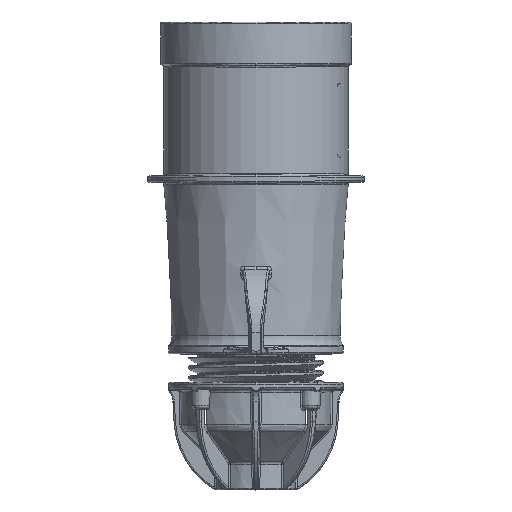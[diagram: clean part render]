
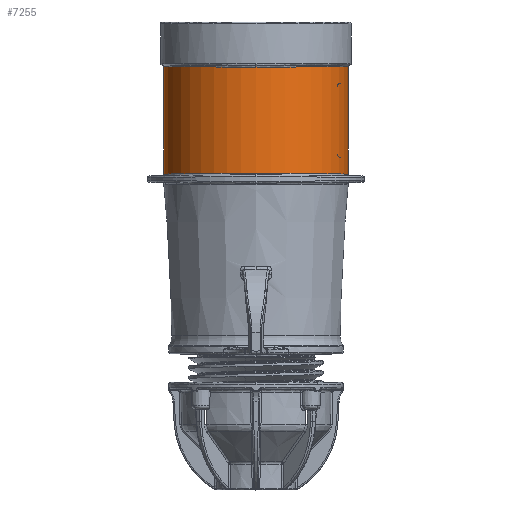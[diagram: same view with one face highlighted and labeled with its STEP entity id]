
A CAD part, top view. The second image highlights one B-rep face of the part: STEP entity #7255.
In plain terms, the highlighted cylindrical face has radius 27.5 mm (diameter 55 mm), a full revolution.
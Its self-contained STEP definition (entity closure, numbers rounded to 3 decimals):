
#986=ELLIPSE('',#16618,27.501,27.5);
#987=ELLIPSE('',#16619,27.501,27.5);
#988=ELLIPSE('',#16620,27.501,27.5);
#989=ELLIPSE('',#16621,27.501,27.5);
#2908=CYLINDRICAL_SURFACE('',#16622,27.5);
#7255=ADVANCED_FACE('',(#7958,#7959),#2908,.T.);
#7958=FACE_BOUND('',#8046,.T.);
#7959=FACE_BOUND('',#8047,.T.);
#8046=EDGE_LOOP('',(#8884,#8885));
#8047=EDGE_LOOP('',(#8886,#8887));
#8884=ORIENTED_EDGE('',*,*,#13516,.T.);
#8885=ORIENTED_EDGE('',*,*,#13517,.F.);
#8886=ORIENTED_EDGE('',*,*,#13518,.T.);
#8887=ORIENTED_EDGE('',*,*,#13519,.F.);
#12133=VERTEX_POINT('',#20187);
#12134=VERTEX_POINT('',#20188);
#12135=VERTEX_POINT('',#20191);
#12136=VERTEX_POINT('',#20192);
#13516=EDGE_CURVE('',#12133,#12134,#986,.T.);
#13517=EDGE_CURVE('',#12133,#12134,#987,.T.);
#13518=EDGE_CURVE('',#12135,#12136,#988,.T.);
#13519=EDGE_CURVE('',#12135,#12136,#989,.T.);
#16618=AXIS2_PLACEMENT_3D('',#20186,#17498,#17499);
#16619=AXIS2_PLACEMENT_3D('',#20189,#17500,#17501);
#16620=AXIS2_PLACEMENT_3D('',#20190,#17502,#17503);
#16621=AXIS2_PLACEMENT_3D('',#20193,#17504,#17505);
#16622=AXIS2_PLACEMENT_3D('',#20194,#17506,#17507);
#17498=DIRECTION('',(-0.009,-1.,0.));
#17499=DIRECTION('',(1.,-0.009,0.));
#17500=DIRECTION('',(-0.009,1.,0.));
#17501=DIRECTION('',(-1.,-0.009,0.));
#17502=DIRECTION('',(0.009,1.,0.));
#17503=DIRECTION('',(1.,-0.009,0.));
#17504=DIRECTION('',(0.009,-1.,0.));
#17505=DIRECTION('',(-1.,-0.009,0.));
#17506=DIRECTION('',(0.,-1.,0.));
#17507=DIRECTION('',(0.,0.,-1.));
#20186=CARTESIAN_POINT('',(0.,39.3,0.));
#20187=CARTESIAN_POINT('',(0.,39.3,27.5));
#20188=CARTESIAN_POINT('',(0.,39.3,-27.5));
#20189=CARTESIAN_POINT('',(0.,39.3,0.));
#20190=CARTESIAN_POINT('',(0.,7.8,0.));
#20191=CARTESIAN_POINT('',(0.,7.8,27.5));
#20192=CARTESIAN_POINT('',(0.,7.8,-27.5));
#20193=CARTESIAN_POINT('',(0.,7.8,0.));
#20194=CARTESIAN_POINT('',(0.,5.948,0.));
